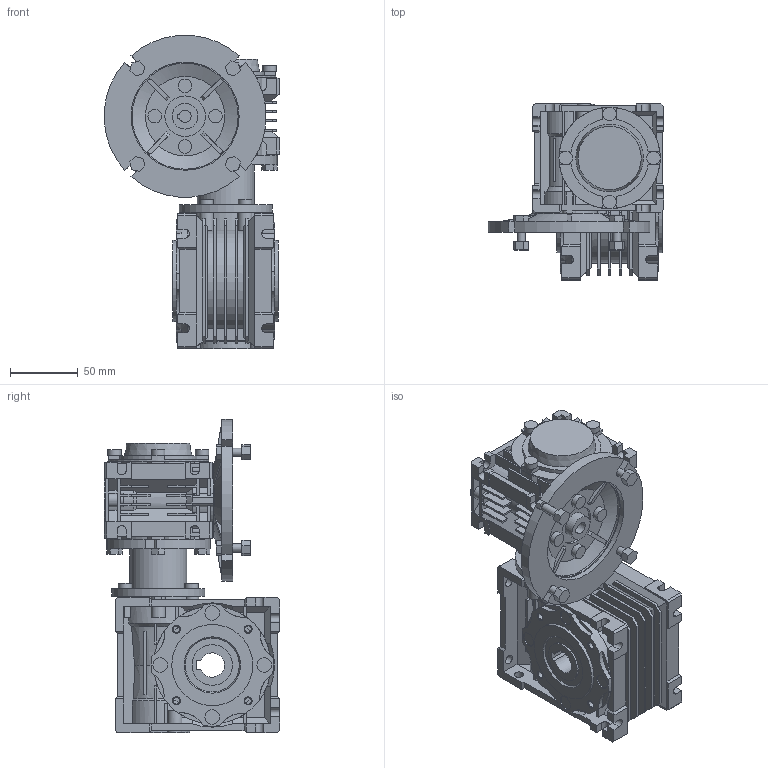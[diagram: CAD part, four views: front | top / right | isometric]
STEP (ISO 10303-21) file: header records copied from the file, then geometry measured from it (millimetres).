
FILE_DESCRIPTION(/* description */ ('STEP AP214'),/* implementation_level */ '2;1');
FILE_NAME(/* name */ 'NMRV-NMRV030-040100 (10x10)51118NO11NO00NO---(--------)',/* time_stamp */ '2024-10-22T08:59:24+02:00',/* author */ ('License CC BY-ND 4.0'),/* organization */ ('CADENAS'),/* preprocessor_version */ 'ST-DEVELOPER v19.3',/* originating_system */ 'PARTsolutions',/* authorisation */ ' ');
FILE_SCHEMA (('AUTOMOTIVE_DESIGN {1 0 10303 214 3 1 1}'));
Length unit declared in the file: millimetre
Products named in the file (13): NMRV-NMRV030-040100 (10x10)51118NO11NO00NO---(--------); 030-040100 (10x10)5114118No11No00NO---(--------)-d; 030-04050 (5x10)51118No11No00NO---d1; 030-04050 (5x10)51118No11No00T0561-d1; Gear unit 40; 040-18 (78)alc-n; VB 040-11 (11); Gear unit 30; 030-14 (63)alc-n; FT 030-040; Hollow shaft 30; VB 030-09 (9); 30-56 B5
Assembly tree (13 placements, depth 2):
  NMRV-NMRV030-040100 (10x10)51118NO11NO00NO---(--------)
    030-040100 (10x10)5114118No11No00NO---(--------)-d
    030-04050 (5x10)51118No11No00NO---d1
    030-04050 (5x10)51118No11No00T0561-d1  x2
    Gear unit 40
    040-18 (78)alc-n
    VB 040-11 (11)
    Gear unit 30
    030-14 (63)alc-n
    FT 030-040
    Hollow shaft 30
    VB 030-09 (9)
    30-56 B5
Bounding box: 129.8 x 130 x 231.8 mm (x, y, z)
Volume: 1135214.6 mm3; surface area: 296378.6 mm2
Topology: 9 solids, 16 shells, 1625 faces, 4373 edges, 2849 vertices
Faces by surface type: plane 1209, cylinder 330, cone 84, torus 2
Full cylindrical faces by diameter (mm): 3.545 x3, 4.65 x3, 4.917 x16, 5.55 x3, 6 x8, 7 x6, 10 x12, 10.8 x4, 16 x1, 19 x2, 23 x2, 24.8 x2, 28 x1, 30 x4, 36 x1, 37 x1, 38 x1, 40 x1, 42 x1, 47 x1, 55 x3, 60 x2, 69 x1, 75 x2, 78.5 x1, 80 x1
Entity records: 61270 total; most frequent: CARTESIAN_POINT 9334, ORIENTED_EDGE 8436, DIRECTION 8258, EDGE_CURVE 4218, LINE 3064, VECTOR 3064, VERTEX_POINT 2824, AXIS2_PLACEMENT_3D 2597
